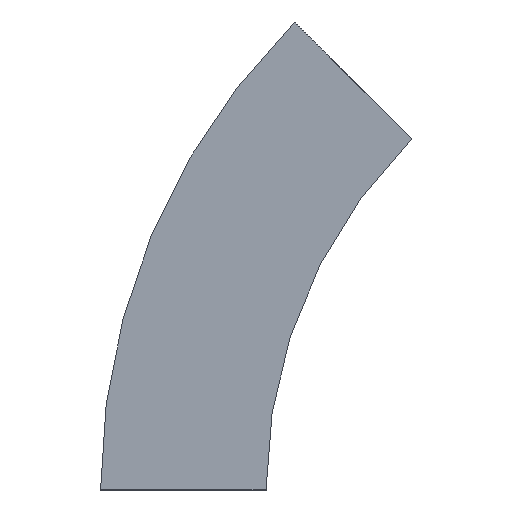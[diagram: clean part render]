
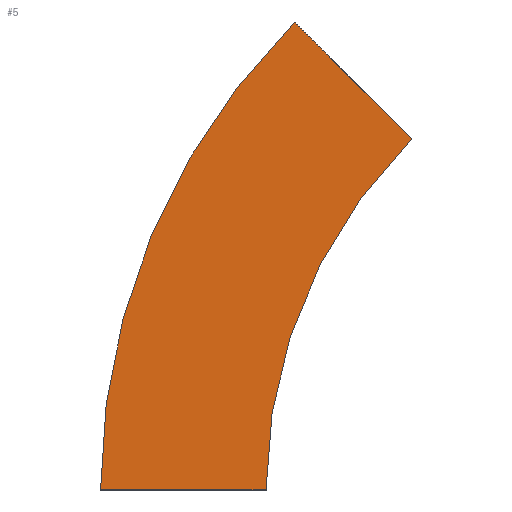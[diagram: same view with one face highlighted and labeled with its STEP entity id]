
A CAD part, left-side view. The second image highlights one B-rep face of the part: STEP entity #5.
In plain terms, the highlighted planar face has unit normal (-1, 0, 0) as drawn and (1, 0, 0) by its records, which use the part's own axes.
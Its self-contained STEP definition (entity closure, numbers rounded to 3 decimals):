
#5 = ADVANCED_FACE ( 'NONE', ( #82 ), #254, .T. ) ;
#24 = EDGE_CURVE ( 'NONE', #484, #94, #405, .T. ) ;
#26 = CARTESIAN_POINT ( 'NONE',  ( 0., -300., 0. ) ) ;
#32 = AXIS2_PLACEMENT_3D ( 'NONE', #56, #499, #67 ) ;
#38 = DIRECTION ( 'NONE',  ( 1., 0., 0. ) ) ;
#56 = CARTESIAN_POINT ( 'NONE',  ( 0., -300., 0. ) ) ;
#67 = DIRECTION ( 'NONE',  ( 0., 1., 0. ) ) ;
#82 = FACE_OUTER_BOUND ( 'NONE', #95, .T. ) ;
#85 = VERTEX_POINT ( 'NONE', #113 ) ;
#94 = VERTEX_POINT ( 'NONE', #100 ) ;
#95 = EDGE_LOOP ( 'NONE', ( #519, #465, #481, #258 ) ) ;
#100 = CARTESIAN_POINT ( 'NONE',  ( 0., -17.157, 282.843 ) ) ;
#113 = CARTESIAN_POINT ( 'NONE',  ( 0., 0., 0. ) ) ;
#134 = VERTEX_POINT ( 'NONE', #242 ) ;
#135 = DIRECTION ( 'NONE',  ( 0., 0.707, 0.707 ) ) ;
#141 = CARTESIAN_POINT ( 'NONE',  ( 0., -87.868, 212.132 ) ) ;
#154 = AXIS2_PLACEMENT_3D ( 'NONE', #26, #402, #502 ) ;
#212 = LINE ( 'NONE', #141, #471 ) ;
#214 = DIRECTION ( 'NONE',  ( 0., 0., -1. ) ) ;
#242 = CARTESIAN_POINT ( 'NONE',  ( 0., -87.868, 212.132 ) ) ;
#254 = PLANE ( 'NONE',  #435 ) ;
#258 = ORIENTED_EDGE ( 'NONE', *, *, #364, .T. ) ;
#315 = EDGE_CURVE ( 'NONE', #134, #94, #212, .T. ) ;
#323 = DIRECTION ( 'NONE',  ( 0., 1., 0. ) ) ;
#328 = LINE ( 'NONE', #440, #479 ) ;
#346 = CIRCLE ( 'NONE', #154, 300. ) ;
#356 = EDGE_CURVE ( 'NONE', #85, #134, #346, .T. ) ;
#364 = EDGE_CURVE ( 'NONE', #85, #484, #328, .T. ) ;
#402 = DIRECTION ( 'NONE',  ( 1., 0., 0. ) ) ;
#405 = CIRCLE ( 'NONE', #32, 400. ) ;
#418 = CARTESIAN_POINT ( 'NONE',  ( 0., 0., 0. ) ) ;
#435 = AXIS2_PLACEMENT_3D ( 'NONE', #418, #38, #214 ) ;
#440 = CARTESIAN_POINT ( 'NONE',  ( 0., 0., 0. ) ) ;
#465 = ORIENTED_EDGE ( 'NONE', *, *, #315, .F. ) ;
#471 = VECTOR ( 'NONE', #135, 1000. ) ;
#479 = VECTOR ( 'NONE', #323, 1000. ) ;
#481 = ORIENTED_EDGE ( 'NONE', *, *, #356, .F. ) ;
#484 = VERTEX_POINT ( 'NONE', #542 ) ;
#499 = DIRECTION ( 'NONE',  ( 1., 0., 0. ) ) ;
#502 = DIRECTION ( 'NONE',  ( 0., 1., 0. ) ) ;
#519 = ORIENTED_EDGE ( 'NONE', *, *, #24, .T. ) ;
#542 = CARTESIAN_POINT ( 'NONE',  ( 0., 100., 0. ) ) ;
